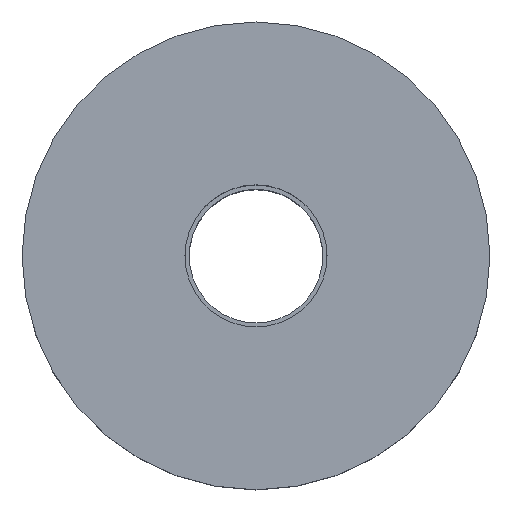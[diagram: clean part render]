
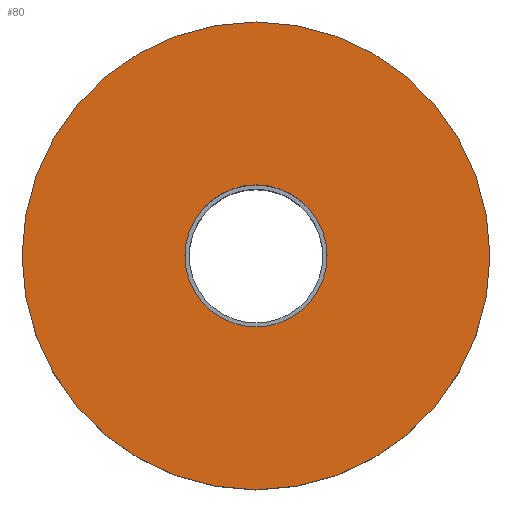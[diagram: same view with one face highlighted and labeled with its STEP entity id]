
A CAD part, top view. The second image highlights one B-rep face of the part: STEP entity #80.
In plain terms, the highlighted planar face has unit normal (0, 0, 1).
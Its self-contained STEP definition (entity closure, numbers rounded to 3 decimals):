
#9 = AXIS2_PLACEMENT_3D ( 'NONE', #354, #127, #380 ) ;
#30 = EDGE_CURVE ( 'NONE', #466, #192, #405, .T. ) ;
#38 = AXIS2_PLACEMENT_3D ( 'NONE', #451, #378, #283 ) ;
#40 = PLANE ( 'NONE',  #179 ) ;
#41 = CARTESIAN_POINT ( 'NONE',  ( 0., 0., 0. ) ) ;
#43 = DIRECTION ( 'NONE',  ( 0., 0., 1. ) ) ;
#51 = EDGE_CURVE ( 'NONE', #211, #397, #112, .T. ) ;
#54 = AXIS2_PLACEMENT_3D ( 'NONE', #41, #43, #61 ) ;
#61 = DIRECTION ( 'NONE',  ( 1., 0., 0. ) ) ;
#79 = CARTESIAN_POINT ( 'NONE',  ( 0., 4.25, 0. ) ) ;
#80 = ADVANCED_FACE ( 'NONE', ( #126, #430 ), #40, .F. ) ;
#87 = CIRCLE ( 'NONE', #218, 14. ) ;
#93 = CARTESIAN_POINT ( 'NONE',  ( 4.25, 0., 0. ) ) ;
#112 = CIRCLE ( 'NONE', #38, 14. ) ;
#126 = FACE_BOUND ( 'NONE', #443, .T. ) ;
#127 = DIRECTION ( 'NONE',  ( 0., 0., 1. ) ) ;
#156 = CARTESIAN_POINT ( 'NONE',  ( -14., 0., 0. ) ) ;
#167 = EDGE_LOOP ( 'NONE', ( #370, #314 ) ) ;
#179 = AXIS2_PLACEMENT_3D ( 'NONE', #79, #457, #243 ) ;
#186 = CARTESIAN_POINT ( 'NONE',  ( -4.25, 0., 0. ) ) ;
#190 = ORIENTED_EDGE ( 'NONE', *, *, #30, .F. ) ;
#192 = VERTEX_POINT ( 'NONE', #93 ) ;
#206 = CARTESIAN_POINT ( 'NONE',  ( 0., 0., 0. ) ) ;
#208 = DIRECTION ( 'NONE',  ( 0., 0., 1. ) ) ;
#211 = VERTEX_POINT ( 'NONE', #292 ) ;
#218 = AXIS2_PLACEMENT_3D ( 'NONE', #206, #208, #224 ) ;
#224 = DIRECTION ( 'NONE',  ( 1., 0., 0. ) ) ;
#243 = DIRECTION ( 'NONE',  ( -1., 0., 0. ) ) ;
#283 = DIRECTION ( 'NONE',  ( 1., 0., 0. ) ) ;
#292 = CARTESIAN_POINT ( 'NONE',  ( 14., 0., 0. ) ) ;
#314 = ORIENTED_EDGE ( 'NONE', *, *, #469, .T. ) ;
#354 = CARTESIAN_POINT ( 'NONE',  ( 0., 0., 0. ) ) ;
#357 = ORIENTED_EDGE ( 'NONE', *, *, #391, .F. ) ;
#370 = ORIENTED_EDGE ( 'NONE', *, *, #51, .T. ) ;
#378 = DIRECTION ( 'NONE',  ( 0., 0., 1. ) ) ;
#380 = DIRECTION ( 'NONE',  ( 1., 0., 0. ) ) ;
#391 = EDGE_CURVE ( 'NONE', #192, #466, #409, .T. ) ;
#397 = VERTEX_POINT ( 'NONE', #156 ) ;
#405 = CIRCLE ( 'NONE', #9, 4.25 ) ;
#409 = CIRCLE ( 'NONE', #54, 4.25 ) ;
#430 = FACE_OUTER_BOUND ( 'NONE', #167, .T. ) ;
#443 = EDGE_LOOP ( 'NONE', ( #357, #190 ) ) ;
#451 = CARTESIAN_POINT ( 'NONE',  ( 0., 0., 0. ) ) ;
#457 = DIRECTION ( 'NONE',  ( 0., 0., -1. ) ) ;
#466 = VERTEX_POINT ( 'NONE', #186 ) ;
#469 = EDGE_CURVE ( 'NONE', #397, #211, #87, .T. ) ;
